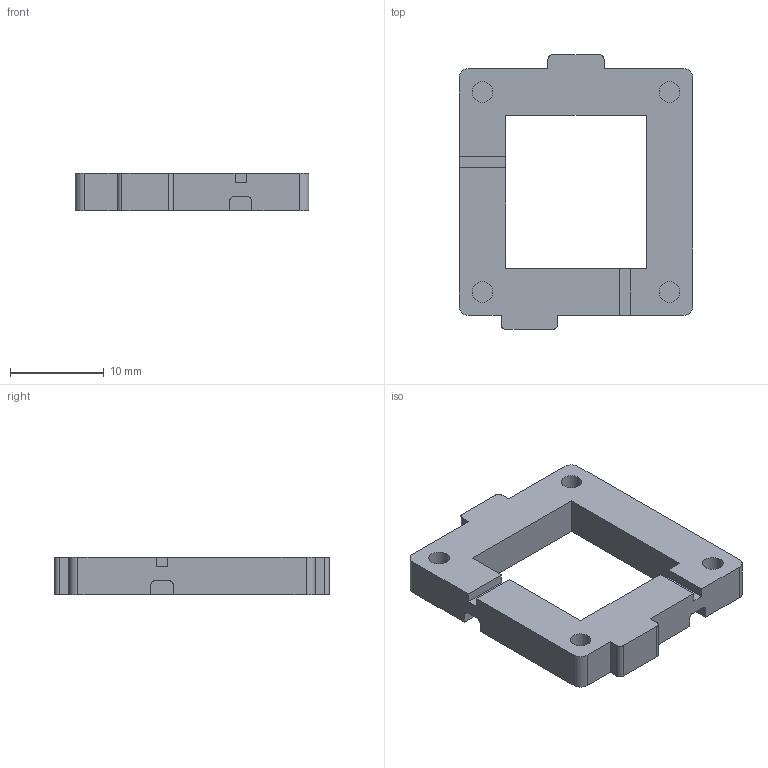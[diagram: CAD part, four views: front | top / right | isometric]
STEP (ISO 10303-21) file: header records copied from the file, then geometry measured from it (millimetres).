
FILE_DESCRIPTION(/* description */ (''),/* implementation_level */ '2;1');
FILE_NAME(/* name */ 'Supporto_Test_Splitter_Bottom_optimized.step',/* time_stamp */ '2023-03-13T17:27:22+01:00',/* author */ (''),/* organization */ (''),/* preprocessor_version */ 'ST-DEVELOPER v19.2',/* originating_system */ 'Autodesk Translation Framework v11.17.0.187',/* authorisation */ '');
FILE_SCHEMA (('AUTOMOTIVE_DESIGN { 1 0 10303 214 3 1 1 }'));
Length unit declared in the file: millimetre
Products named in the file (1): Supporto_Test_Splitter_Bottom_optimized
Bounding box: 25 x 29.4 x 4 mm (x, y, z)
Volume: 1646.4 mm3; surface area: 1620.2 mm2
Topology: 1 solids, 1 shells, 52 faces, 144 edges, 96 vertices
Faces by surface type: plane 36, cylinder 16
Full cylindrical faces by diameter (mm): 2.2 x4
Entity records: 1697 total; most frequent: CARTESIAN_POINT 293, ORIENTED_EDGE 288, DIRECTION 282, EDGE_CURVE 144, LINE 112, VECTOR 112, VERTEX_POINT 96, AXIS2_PLACEMENT_3D 85
